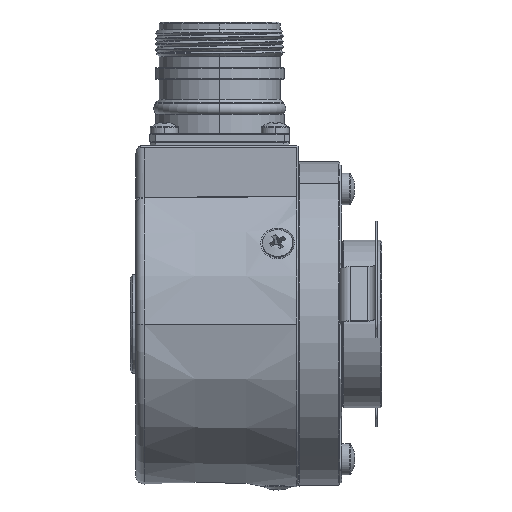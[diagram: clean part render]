
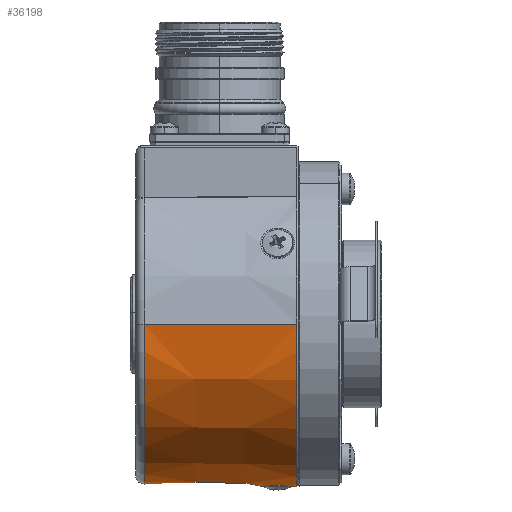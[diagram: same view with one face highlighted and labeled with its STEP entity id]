
A CAD part, left-side view. The second image highlights one B-rep face of the part: STEP entity #36198.
In plain terms, the highlighted conical face has half-angle 1 degrees and reference radius 28.565 mm.
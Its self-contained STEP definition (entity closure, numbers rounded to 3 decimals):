
#125 = FACE_BOUND ( 'NONE', #27706, .T. ) ;
#2166 = CARTESIAN_POINT ( 'NONE',  ( 3.06, 11.981, -28.831 ) ) ;
#2524 = CARTESIAN_POINT ( 'NONE',  ( 2.534, 9.349, -28.928 ) ) ;
#2892 = CARTESIAN_POINT ( 'NONE',  ( 3.187, 11.397, -28.828 ) ) ;
#2895 = CARTESIAN_POINT ( 'NONE',  ( -28.591, 35.026, 0. ) ) ;
#3237 = CARTESIAN_POINT ( 'NONE',  ( 3.014, 10.223, -28.867 ) ) ;
#4652 = CARTESIAN_POINT ( 'NONE',  ( 1.389, 13.918, -28.928 ) ) ;
#5017 = CARTESIAN_POINT ( 'NONE',  ( -2.115, 13.432, -28.891 ) ) ;
#5382 = CARTESIAN_POINT ( 'NONE',  ( -2.879, 12.497, -28.842 ) ) ;
#5831 = ORIENTED_EDGE ( 'NONE', *, *, #34679, .F. ) ;
#7203 = CARTESIAN_POINT ( 'NONE',  ( -0.796, 8.242, -29.048 ) ) ;
#8268 = CARTESIAN_POINT ( 'NONE',  ( -1.381, 8.446, -29.022 ) ) ;
#8615 = CARTESIAN_POINT ( 'NONE',  ( -0.997, 8.298, -29.041 ) ) ;
#9122 = LINE ( 'NONE', #13814, #34993 ) ;
#9752 = DIRECTION ( 'NONE',  ( -0.017, -1., 0. ) ) ;
#9891 = EDGE_CURVE ( 'NONE', #12755, #58520, #15768, .T. ) ;
#11089 = CARTESIAN_POINT ( 'NONE',  ( -2.735, 9.636, -28.905 ) ) ;
#11187 = FACE_OUTER_BOUND ( 'NONE', #20624, .T. ) ;
#11361 = CARTESIAN_POINT ( 'NONE',  ( 0., 7.697, 0. ) ) ;
#12278 = CARTESIAN_POINT ( 'NONE',  ( 1.738, 13.7, -28.911 ) ) ;
#12755 = VERTEX_POINT ( 'NONE', #43343 ) ;
#13289 = CARTESIAN_POINT ( 'NONE',  ( 2.761, 9.678, -28.902 ) ) ;
#13814 = CARTESIAN_POINT ( 'NONE',  ( 28.565, 36.5, 0. ) ) ;
#13983 = CARTESIAN_POINT ( 'NONE',  ( -1.737, 8.646, -28.999 ) ) ;
#15768 = B_SPLINE_CURVE_WITH_KNOTS ( 'NONE', 3,
 ( #13983, #29709, #8268, #8615, #7203, #62393, #45338, #52077, #56724, #67087, #46385, #51010, #68158, #19325, #2524, #13289, #35708, #3237, #18273, #39986, #2892, #2166, #30055, #46038, #61702, #24022, #67444, #41033, #18637, #40336 ),
 .UNSPECIFIED., .F., .F.,
 ( 4, 2, 2, 2, 2, 2, 2, 2, 2, 2, 2, 2, 2, 2, 4 ),
 ( 0.998, 1.029, 1.06, 1.092, 1.123, 1.185, 1.217, 1.248, 1.279, 1.31, 1.373, 1.404, 1.435, 1.467, 1.498 ),
 .UNSPECIFIED. ) ;
#16070 = CARTESIAN_POINT ( 'NONE',  ( -3.151, 11.541, -28.829 ) ) ;
#16429 = CARTESIAN_POINT ( 'NONE',  ( -3.059, 10.363, -28.86 ) ) ;
#17483 = CIRCLE ( 'NONE', #37969, 29.068 ) ;
#18099 = CARTESIAN_POINT ( 'NONE',  ( 0., 35.026, 0. ) ) ;
#18273 = CARTESIAN_POINT ( 'NONE',  ( 3.073, 10.411, -28.857 ) ) ;
#18637 = CARTESIAN_POINT ( 'NONE',  ( 1.913, 13.591, -28.902 ) ) ;
#19325 = CARTESIAN_POINT ( 'NONE',  ( 2.404, 9.196, -28.942 ) ) ;
#19431 = ORIENTED_EDGE ( 'NONE', *, *, #51514, .T. ) ;
#19664 = VERTEX_POINT ( 'NONE', #46511 ) ;
#20624 = EDGE_LOOP ( 'NONE', ( #47795, #65939, #56655, #5831 ) ) ;
#20820 = VECTOR ( 'NONE', #9752, 1000. ) ;
#21465 = CARTESIAN_POINT ( 'NONE',  ( -0.24, 14.213, -28.956 ) ) ;
#22194 = CARTESIAN_POINT ( 'NONE',  ( -2.405, 13.15, -28.873 ) ) ;
#24022 = CARTESIAN_POINT ( 'NONE',  ( 2.503, 13.037, -28.866 ) ) ;
#24571 = CIRCLE ( 'NONE', #26858, 28.591 ) ;
#24594 = B_SPLINE_CURVE_WITH_KNOTS ( 'NONE', 3,
 ( #27559, #4652, #42806, #59900, #21465, #43149, #32128, #49166, #65246, #64870, #5017, #22194, #48823, #5382, #27205, #16070, #53472, #37449, #64165, #16429, #26491, #58837, #11089, #37822, #59545, #64530 ),
 .UNSPECIFIED., .F., .F.,
 ( 4, 2, 2, 2, 2, 2, 2, 2, 2, 2, 2, 2, 4 ),
 ( 0.498, 0.56, 0.623, 0.654, 0.685, 0.717, 0.748, 0.81, 0.842, 0.873, 0.904, 0.935, 0.998 ),
 .UNSPECIFIED. ) ;
#26491 = CARTESIAN_POINT ( 'NONE',  ( -2.997, 10.173, -28.87 ) ) ;
#26835 = EDGE_CURVE ( 'NONE', #63183, #19664, #24571, .T. ) ;
#26858 = AXIS2_PLACEMENT_3D ( 'NONE', #18099, #61527, #39816 ) ;
#27205 = CARTESIAN_POINT ( 'NONE',  ( -3.036, 12.125, -28.831 ) ) ;
#27559 = CARTESIAN_POINT ( 'NONE',  ( 1.738, 13.7, -28.911 ) ) ;
#27706 = EDGE_LOOP ( 'NONE', ( #58131, #19431 ) ) ;
#29709 = CARTESIAN_POINT ( 'NONE',  ( -1.563, 8.538, -29.012 ) ) ;
#30055 = CARTESIAN_POINT ( 'NONE',  ( 2.999, 12.168, -28.834 ) ) ;
#32128 = CARTESIAN_POINT ( 'NONE',  ( -1.048, 14.032, -28.939 ) ) ;
#34679 = EDGE_CURVE ( 'NONE', #63183, #52670, #36833, .T. ) ;
#34993 = VECTOR ( 'NONE', #41213, 1000. ) ;
#35708 = CARTESIAN_POINT ( 'NONE',  ( 2.858, 9.855, -28.889 ) ) ;
#36198 = ADVANCED_FACE ( 'NONE', ( #125, #11187 ), #43908, .T. ) ;
#36833 = LINE ( 'NONE', #58570, #20820 ) ;
#37449 = CARTESIAN_POINT ( 'NONE',  ( -3.166, 10.946, -28.838 ) ) ;
#37822 = CARTESIAN_POINT ( 'NONE',  ( -2.385, 9.146, -28.945 ) ) ;
#37969 = AXIS2_PLACEMENT_3D ( 'NONE', #11361, #49118, #39172 ) ;
#39172 = DIRECTION ( 'NONE',  ( 1., 0., 0. ) ) ;
#39307 = AXIS2_PLACEMENT_3D ( 'NONE', #69652, #58947, #48590 ) ;
#39816 = DIRECTION ( 'NONE',  ( 1., 0., 0. ) ) ;
#39986 = CARTESIAN_POINT ( 'NONE',  ( 3.189, 10.994, -28.834 ) ) ;
#40336 = CARTESIAN_POINT ( 'NONE',  ( 1.738, 13.7, -28.911 ) ) ;
#41033 = CARTESIAN_POINT ( 'NONE',  ( 2.076, 13.465, -28.893 ) ) ;
#41213 = DIRECTION ( 'NONE',  ( 0.017, -1., 0. ) ) ;
#42806 = CARTESIAN_POINT ( 'NONE',  ( 0.998, 14.069, -28.942 ) ) ;
#43149 = CARTESIAN_POINT ( 'NONE',  ( -0.851, 14.091, -28.944 ) ) ;
#43343 = CARTESIAN_POINT ( 'NONE',  ( -1.737, 8.646, -28.999 ) ) ;
#43908 = CONICAL_SURFACE ( 'NONE', #39307, 28.565, 0.017 ) ;
#45338 = CARTESIAN_POINT ( 'NONE',  ( -0.181, 8.15, -29.06 ) ) ;
#46038 = CARTESIAN_POINT ( 'NONE',  ( 2.837, 12.533, -28.844 ) ) ;
#46385 = CARTESIAN_POINT ( 'NONE',  ( 1.439, 8.452, -29.021 ) ) ;
#46511 = CARTESIAN_POINT ( 'NONE',  ( 28.591, 35.026, 0. ) ) ;
#46592 = VERTEX_POINT ( 'NONE', #54923 ) ;
#47795 = ORIENTED_EDGE ( 'NONE', *, *, #26835, .T. ) ;
#48269 = CARTESIAN_POINT ( 'NONE',  ( -29.068, 7.697, 0. ) ) ;
#48590 = DIRECTION ( 'NONE',  ( -1., 0., 0. ) ) ;
#48823 = CARTESIAN_POINT ( 'NONE',  ( -2.536, 12.995, -28.864 ) ) ;
#49118 = DIRECTION ( 'NONE',  ( 0., 1., 0. ) ) ;
#49166 = CARTESIAN_POINT ( 'NONE',  ( -1.43, 13.877, -28.925 ) ) ;
#51010 = CARTESIAN_POINT ( 'NONE',  ( 1.953, 8.786, -28.984 ) ) ;
#51514 = EDGE_CURVE ( 'NONE', #58520, #12755, #24594, .T. ) ;
#52077 = CARTESIAN_POINT ( 'NONE',  ( 0.233, 8.153, -29.06 ) ) ;
#52670 = VERTEX_POINT ( 'NONE', #48269 ) ;
#53316 = EDGE_CURVE ( 'NONE', #46592, #52670, #17483, .T. ) ;
#53472 = CARTESIAN_POINT ( 'NONE',  ( -3.17, 11.343, -28.83 ) ) ;
#54923 = CARTESIAN_POINT ( 'NONE',  ( 29.068, 7.697, 0. ) ) ;
#56655 = ORIENTED_EDGE ( 'NONE', *, *, #53316, .T. ) ;
#56724 = CARTESIAN_POINT ( 'NONE',  ( 0.441, 8.174, -29.057 ) ) ;
#58131 = ORIENTED_EDGE ( 'NONE', *, *, #9891, .T. ) ;
#58520 = VERTEX_POINT ( 'NONE', #12278 ) ;
#58570 = CARTESIAN_POINT ( 'NONE',  ( -28.565, 36.5, 0. ) ) ;
#58837 = CARTESIAN_POINT ( 'NONE',  ( -2.834, 9.808, -28.892 ) ) ;
#58947 = DIRECTION ( 'NONE',  ( 0., -1., 0. ) ) ;
#59545 = CARTESIAN_POINT ( 'NONE',  ( -2.085, 8.864, -28.975 ) ) ;
#59900 = CARTESIAN_POINT ( 'NONE',  ( 0.183, 14.216, -28.956 ) ) ;
#61527 = DIRECTION ( 'NONE',  ( 0., -1., 0. ) ) ;
#61702 = CARTESIAN_POINT ( 'NONE',  ( 2.737, 12.708, -28.851 ) ) ;
#62393 = CARTESIAN_POINT ( 'NONE',  ( -0.387, 8.168, -29.058 ) ) ;
#63183 = VERTEX_POINT ( 'NONE', #2895 ) ;
#64165 = CARTESIAN_POINT ( 'NONE',  ( -3.144, 10.75, -28.844 ) ) ;
#64530 = CARTESIAN_POINT ( 'NONE',  ( -1.737, 8.646, -28.999 ) ) ;
#64870 = CARTESIAN_POINT ( 'NONE',  ( -1.957, 13.558, -28.9 ) ) ;
#65246 = CARTESIAN_POINT ( 'NONE',  ( -1.613, 13.782, -28.917 ) ) ;
#65878 = EDGE_CURVE ( 'NONE', #19664, #46592, #9122, .T. ) ;
#65939 = ORIENTED_EDGE ( 'NONE', *, *, #65878, .T. ) ;
#67087 = CARTESIAN_POINT ( 'NONE',  ( 1.053, 8.296, -29.041 ) ) ;
#67444 = CARTESIAN_POINT ( 'NONE',  ( 2.371, 13.188, -28.875 ) ) ;
#68158 = CARTESIAN_POINT ( 'NONE',  ( 2.113, 8.913, -28.97 ) ) ;
#69652 = CARTESIAN_POINT ( 'NONE',  ( 0., 36.5, 0. ) ) ;
